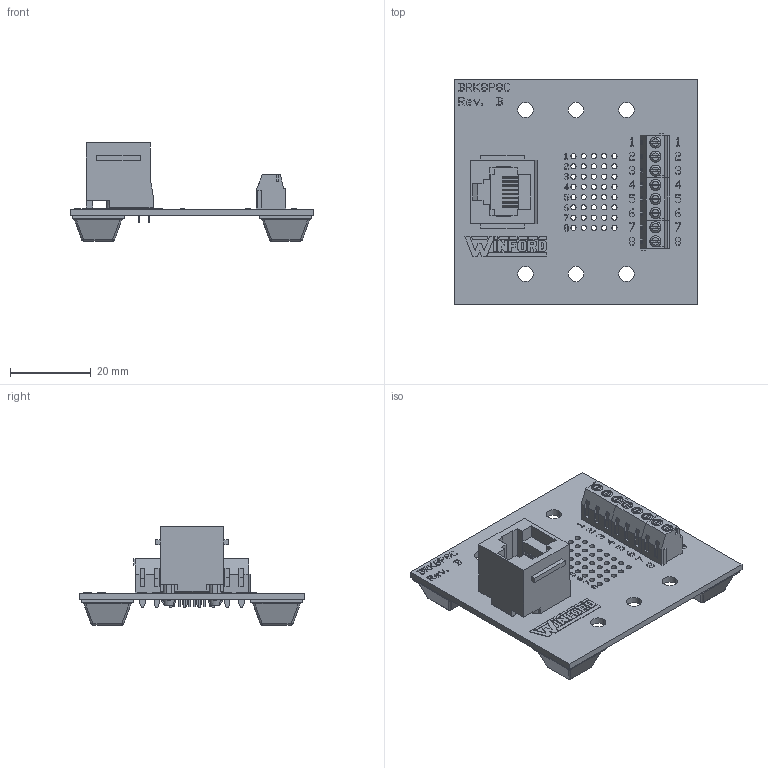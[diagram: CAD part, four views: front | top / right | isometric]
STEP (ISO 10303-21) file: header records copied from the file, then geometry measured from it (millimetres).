
FILE_DESCRIPTION (( 'STEP AP214' ), '1' );
FILE_NAME ('BRK8P8C-S-FT.step', '2015-05-12T03:28:59', ( '' ), ( '' ), 'SwSTEP 2.0', 'SolidWorks 2014', '' );
FILE_SCHEMA (( 'AUTOMOTIVE_DESIGN' ));
Length unit declared in the file: millimetre
Products named in the file (1): BRK8P8C-S-FT
Bounding box: 60.45 x 55.88 x 24.33 mm (x, y, z)
Surface area: 13796.3 mm2 (no closed solid volume)
Topology: 0 solids, 17 shells, 2288 faces, 6267 edges, 4119 vertices
Faces by surface type: plane 1635, cylinder 358, bspline 243, cone 20, sphere 16, torus 16
Entity records: 104040 total; most frequent: CARTESIAN_POINT 22147, ORIENTED_EDGE 12470, DIRECTION 10278, EDGE_CURVE 6251, VECTOR 4850, LINE 4850, VERTEX_POINT 4119, AXIS2_PLACEMENT_3D 2714
